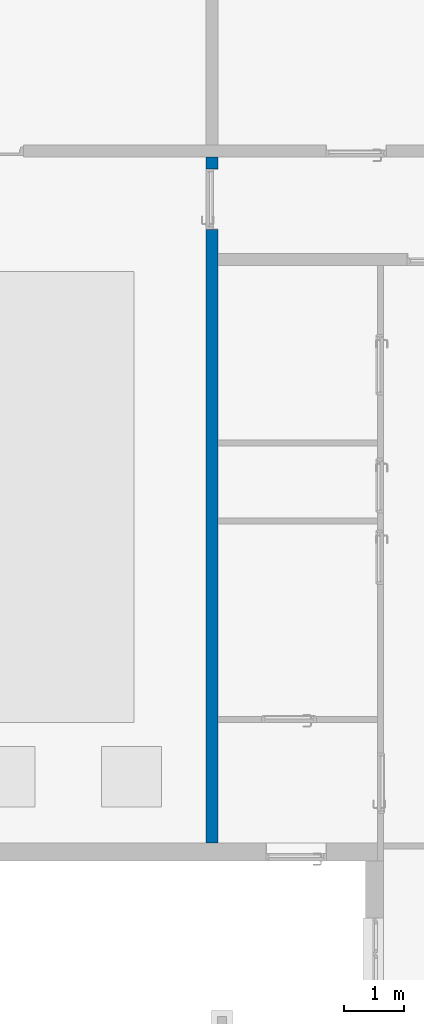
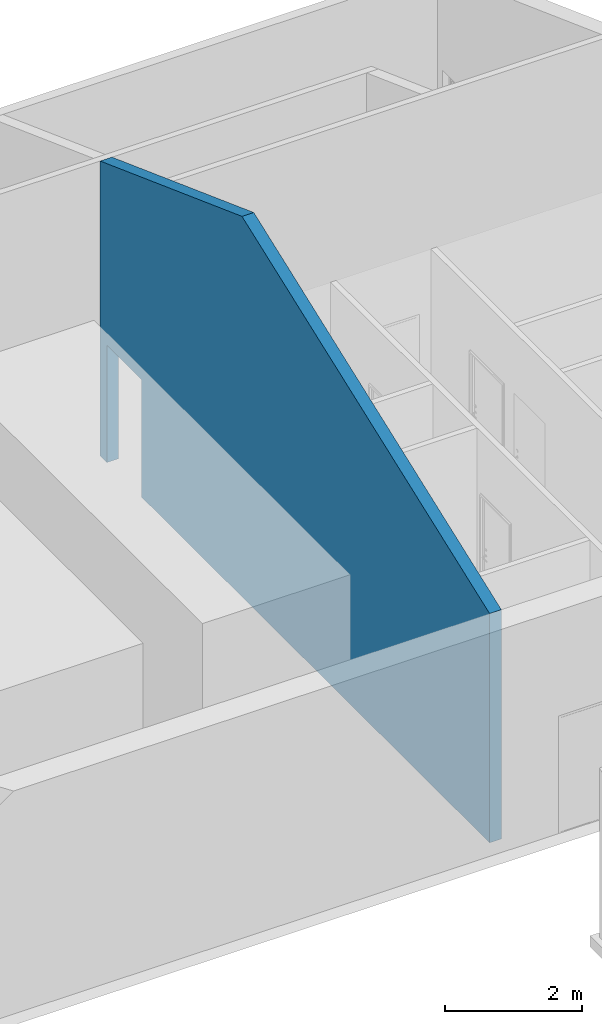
# One storey, part 9 of 23: 1 wall, 1 opening.
"""IFC2X3 building model written with IfcOpenShell, lengths in millimetres."""

from ifc_helpers import new_model, entity, si_unit, converted_unit, direction, frame, frame_2d, origin, place, context, subcontext, project, spatial, polyline, rectangle, extrude, clip, bounded_halfspace, material, layer, layer_set, layer_usage, type_object, element, save


model = new_model("IFC2X3")

# Units and contexts
model_context = context("Model", 3, precision=0.01, world=origin(), true_north=direction((6.123031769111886e-17, 1.0)))
body_context = subcontext(model_context, "Body", "Model", "MODEL_VIEW")
ifc_project = project(units=[si_unit("LENGTHUNIT", "METRE", prefix="MILLI"), converted_unit("PLANEANGLEUNIT", "DEGREE", entity("IfcPlaneAngleMeasure", 0.017453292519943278), si_unit("PLANEANGLEUNIT", "RADIAN"), dimensions=[0, 0, 0, 0, 0, 0, 0]), si_unit("AREAUNIT", "SQUARE_METRE")], contexts=[model_context])

# Site, building, storey
site_placement = place(None, frame((7776.576483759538, 118.3519876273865, 0.0)))
site = spatial("IfcSite", under=ifc_project, at=site_placement, Name="Default", CompositionType="ELEMENT")
building_placement = place(site_placement, origin())
building = spatial("IfcBuilding", under=site, at=building_placement, Name="Bygning (endres i Project Information)", CompositionType="ELEMENT")
storey_placement = place(building_placement, frame((0.0, 0.0, 19000.0)))
storey = spatial("IfcBuildingStorey", under=building, at=storey_placement, Name="Plan 01", CompositionType="ELEMENT", Elevation=19000.0)

# Wall, opening
ifc_material = material(Name="Default Wall")
ifc_layer = layer(ifc_material, 200.0)
ifc_layer_set = layer_set([ifc_layer], Name="Basic Wall:Generic - 200mm")
ifc_layer_usage = layer_usage(ifc_layer_set, "AXIS2", "NEGATIVE", 100.0)
wall_type = type_object("IfcWallType", Name="Basic Wall:Generic - 200mm", PredefinedType="STANDARD", material=ifc_layer_set)
wall_placement = place(storey_placement, frame((32124.001374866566, 31097.757305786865, 0.0), z_axis=(0.0, 0.0, 1.0), x_axis=(0.0, -1.0, 0.0)))
wall = element("IfcWallStandardCase", 1, at=wall_placement, inside=storey, type_object=wall_type, material=ifc_layer_usage, Name="Basic Wall:Generic - 200mm", ObjectType="Basic Wall:Generic - 200mm", context=body_context, shape_type="Clipping", body=[
    clip(clip(extrude(rectangle(XDim=11399.999999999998, YDim=199.99999999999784, at=frame_2d((5699.999999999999, 6.252776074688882e-13), x_axis=(-1.0, 0.0))), origin(), (0.0, 0.0, 1.0), 6799.999999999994), bounded_halfspace(frame((11400.0, -100.0, 4098.136645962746), z_axis=(0.34920923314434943, 0.0, 0.9370447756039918), x_axis=(0.0, 1.0, 0.0)), False, frame((11400.0, -100.0, 4098.136645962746)), polyline([(0.0, 0.0), (0.0, 200.0), (-7250.0, 200.0), (-7250.0, 0.0), (0.0, 0.0)]))), bounded_halfspace(frame((0.0, -100.0, 5272.39263803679), z_axis=(-0.34543854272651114, 0.0, 0.9384413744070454), x_axis=(0.0, -1.0, 0.0)), False, frame((0.0, -100.0, 5272.39263803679)), polyline([(0.0, 0.0), (4150.0, 0.0), (4150.0, 200.0), (1800.0, 200.0), (1600.0, 200.0), (0.0, 200.0), (0.0, 0.0)]))),
])
opening_placement = place(wall_placement, frame((1205.0, 100.0, 0.0)))
element("IfcOpeningElement", 2, at=opening_placement, cuts=wall, Name="Single Door Simple:986 x 2089 mm - M10 x M21:1", ObjectType="Opening", context=body_context, shape_type="SweptSolid", body=[
    extrude(rectangle(XDim=2100.9999999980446, YDim=1009.9999999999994, at=frame_2d((1050.4999999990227, 504.9999999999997), x_axis=(1.0, 0.0))), frame((0.0, 0.0, 0.0), z_axis=(0.0, -1.0, 0.0), x_axis=(0.0, 0.0, 1.0)), (0.0, 0.0, 1.0), 200.0),
])

save(model, "model.ifc")
